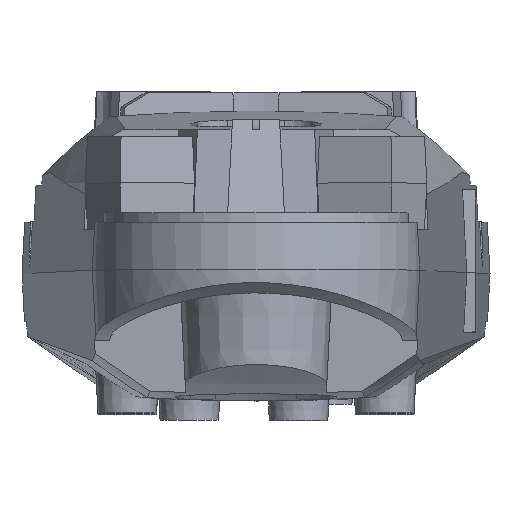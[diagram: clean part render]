
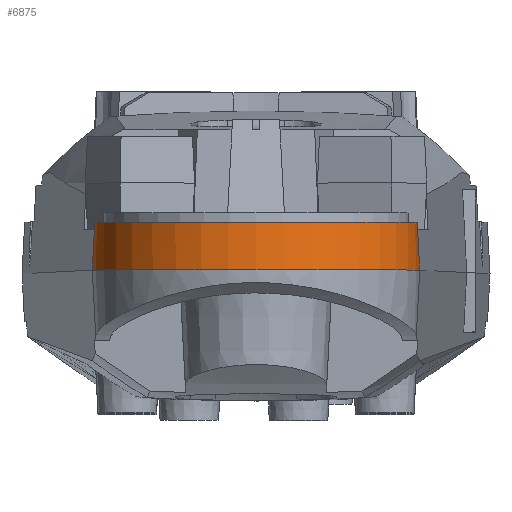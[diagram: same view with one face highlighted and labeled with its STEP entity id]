
A CAD part, top view. The second image highlights one B-rep face of the part: STEP entity #6875.
In plain terms, the highlighted conical face has half-angle 3 degrees and reference radius 70 mm.
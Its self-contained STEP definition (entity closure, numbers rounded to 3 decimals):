
#6618 = EDGE_CURVE ( 'NONE', #6894, #6619, #12634, .T. ) ;
#6619 = VERTEX_POINT ( 'NONE', #12630 ) ;
#6634 = EDGE_CURVE ( 'NONE', #6886, #6635, #12575, .T. ) ;
#6635 = VERTEX_POINT ( 'NONE', #12516 ) ;
#6636 = ORIENTED_EDGE ( 'NONE', *, *, #6637, .T. ) ;
#6637 = EDGE_CURVE ( 'NONE', #6635, #6638, #12515, .T. ) ;
#6638 = VERTEX_POINT ( 'NONE', #12510 ) ;
#6639 = ORIENTED_EDGE ( 'NONE', *, *, #6640, .F. ) ;
#6640 = EDGE_CURVE ( 'NONE', #6641, #6638, #12509, .T. ) ;
#6641 = VERTEX_POINT ( 'NONE', #12505 ) ;
#6642 = ORIENTED_EDGE ( 'NONE', *, *, #6643, .T. ) ;
#6643 = EDGE_CURVE ( 'NONE', #6641, #6619, #12504, .T. ) ;
#6875 = ADVANCED_FACE ( 'NONE', ( #13449 ), #13448, .T. ) ;
#6876 = EDGE_LOOP ( 'NONE', ( #6877, #6878, #6881, #6884, #6887, #6636, #6639, #6642 ) ) ;
#6877 = ORIENTED_EDGE ( 'NONE', *, *, #6618, .F. ) ;
#6878 = ORIENTED_EDGE ( 'NONE', *, *, #6879, .F. ) ;
#6879 = EDGE_CURVE ( 'NONE', #6880, #6894, #13380, .T. ) ;
#6880 = VERTEX_POINT ( 'NONE', #13375 ) ;
#6881 = ORIENTED_EDGE ( 'NONE', *, *, #6882, .T. ) ;
#6882 = EDGE_CURVE ( 'NONE', #6880, #6883, #13374, .T. ) ;
#6883 = VERTEX_POINT ( 'NONE', #13370 ) ;
#6884 = ORIENTED_EDGE ( 'NONE', *, *, #6885, .T. ) ;
#6885 = EDGE_CURVE ( 'NONE', #6883, #6886, #13369, .T. ) ;
#6886 = VERTEX_POINT ( 'NONE', #13364 ) ;
#6887 = ORIENTED_EDGE ( 'NONE', *, *, #6634, .T. ) ;
#6894 = VERTEX_POINT ( 'NONE', #13438 ) ;
#12500 = DIRECTION ( 'NONE',  ( -1., 0., 0. ) ) ;
#12501 = DIRECTION ( 'NONE',  ( 0., 1., 0. ) ) ;
#12502 = CARTESIAN_POINT ( 'NONE',  ( 150., -157., 1345. ) ) ;
#12503 = AXIS2_PLACEMENT_3D ( 'NONE', #12502, #12501, #12500 ) ;
#12504 = CIRCLE ( 'NONE', #12503, 69.088 ) ;
#12505 = CARTESIAN_POINT ( 'NONE',  ( 219.05, -157., 1347.303 ) ) ;
#12506 = DIRECTION ( 'NONE',  ( 0.052, -0.999, 0.002 ) ) ;
#12507 = VECTOR ( 'NONE', #12506, 1000. ) ;
#12508 = CARTESIAN_POINT ( 'NONE',  ( 219.961, -174.4, 1347.333 ) ) ;
#12509 = LINE ( 'NONE', #12508, #12507 ) ;
#12510 = CARTESIAN_POINT ( 'NONE',  ( 219.961, -174.4, 1347.333 ) ) ;
#12511 = DIRECTION ( 'NONE',  ( 1., 0., 0. ) ) ;
#12512 = DIRECTION ( 'NONE',  ( 0., 1., 0. ) ) ;
#12513 = CARTESIAN_POINT ( 'NONE',  ( 150., -174.4, 1345. ) ) ;
#12514 = AXIS2_PLACEMENT_3D ( 'NONE', #12513, #12512, #12511 ) ;
#12515 = CIRCLE ( 'NONE', #12514, 70. ) ;
#12516 = CARTESIAN_POINT ( 'NONE',  ( 80.039, -174.4, 1347.333 ) ) ;
#12517 = DIRECTION ( 'NONE',  ( -0.052, -0.999, 0.002 ) ) ;
#12573 = VECTOR ( 'NONE', #12517, 1000. ) ;
#12574 = CARTESIAN_POINT ( 'NONE',  ( 80.039, -174.4, 1347.333 ) ) ;
#12575 = LINE ( 'NONE', #12574, #12573 ) ;
#12630 = CARTESIAN_POINT ( 'NONE',  ( 219.088, -157., 1345. ) ) ;
#12631 = DIRECTION ( 'NONE',  ( 0.052, -0.999, 0. ) ) ;
#12632 = VECTOR ( 'NONE', #12631, 1000. ) ;
#12633 = CARTESIAN_POINT ( 'NONE',  ( 220., -174.4, 1345. ) ) ;
#12634 = LINE ( 'NONE', #12633, #12632 ) ;
#13364 = CARTESIAN_POINT ( 'NONE',  ( 80.95, -157., 1347.303 ) ) ;
#13365 = DIRECTION ( 'NONE',  ( -1., 0., 0. ) ) ;
#13366 = DIRECTION ( 'NONE',  ( 0., 1., 0. ) ) ;
#13367 = CARTESIAN_POINT ( 'NONE',  ( 150., -157., 1345. ) ) ;
#13368 = AXIS2_PLACEMENT_3D ( 'NONE', #13367, #13366, #13365 ) ;
#13369 = CIRCLE ( 'NONE', #13368, 69.088 ) ;
#13370 = CARTESIAN_POINT ( 'NONE',  ( 80.912, -157., 1345. ) ) ;
#13371 = DIRECTION ( 'NONE',  ( -0.052, -0.999, 0. ) ) ;
#13372 = VECTOR ( 'NONE', #13371, 1000. ) ;
#13373 = CARTESIAN_POINT ( 'NONE',  ( 80., -174.4, 1345. ) ) ;
#13374 = LINE ( 'NONE', #13373, #13372 ) ;
#13375 = CARTESIAN_POINT ( 'NONE',  ( 81.069, -154., 1345. ) ) ;
#13376 = DIRECTION ( 'NONE',  ( 1., 0., 0. ) ) ;
#13377 = DIRECTION ( 'NONE',  ( 0., 1., 0. ) ) ;
#13378 = CARTESIAN_POINT ( 'NONE',  ( 150., -154., 1345. ) ) ;
#13379 = AXIS2_PLACEMENT_3D ( 'NONE', #13378, #13377, #13376 ) ;
#13380 = CIRCLE ( 'NONE', #13379, 68.931 ) ;
#13381 = DIRECTION ( 'NONE',  ( -1., 0., 0. ) ) ;
#13382 = DIRECTION ( 'NONE',  ( 0., -1., 0. ) ) ;
#13383 = CARTESIAN_POINT ( 'NONE',  ( 150., -174.4, 1345. ) ) ;
#13384 = AXIS2_PLACEMENT_3D ( 'NONE', #13383, #13382, #13381 ) ;
#13438 = CARTESIAN_POINT ( 'NONE',  ( 218.931, -154., 1345. ) ) ;
#13448 = CONICAL_SURFACE ( 'NONE', #13384, 70., 0.052 ) ;
#13449 = FACE_OUTER_BOUND ( 'NONE', #6876, .T. ) ;
